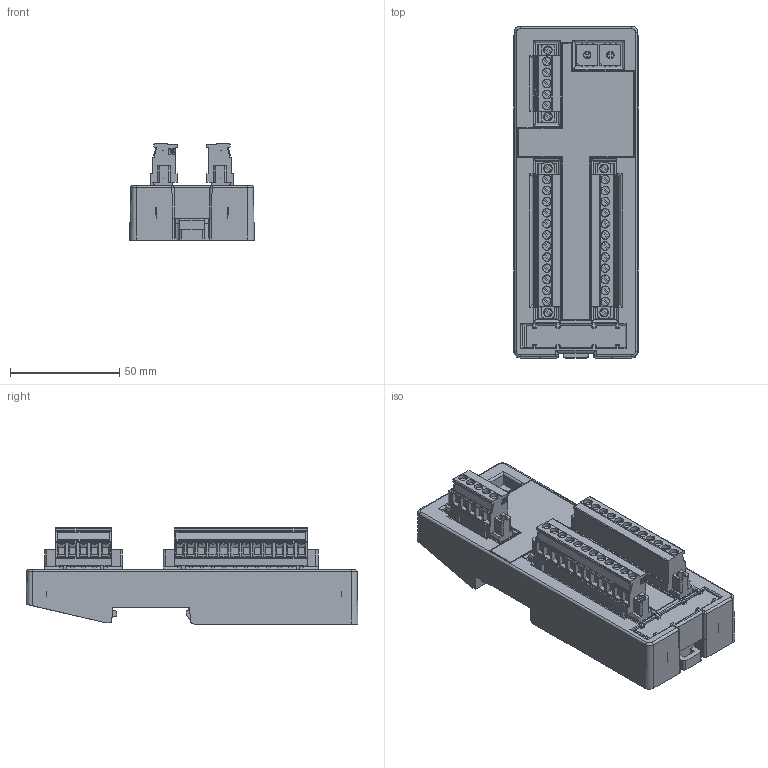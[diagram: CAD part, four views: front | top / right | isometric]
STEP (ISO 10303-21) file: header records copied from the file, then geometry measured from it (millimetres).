
FILE_DESCRIPTION((''),'2;1');
FILE_NAME('C:\TurckZip\FDN20-16XSG.stp','2007-02-12T11:13:50',('IKOROL'),(''),'Autodesk Inventor 11','Autodesk Inventor 11','');
FILE_SCHEMA(('AUTOMOTIVE_DESIGN { 1 0 10303 214 1 1 1 1 }'));
Length unit declared in the file: millimetre
Products named in the file (1): Part8
Bounding box: 57.15 x 152.24 x 44.05 mm (x, y, z)
Volume: 131910 mm3; surface area: 104644.1 mm2
Topology: 149 solids, 149 shells, 5598 faces, 14206 edges, 9070 vertices
Faces by surface type: plane 3893, cylinder 898, cone 432, sphere 316, torus 40, bspline 19
Full cylindrical faces by diameter (mm): 0.1 x2, 0.75 x1, 1 x14, 1.25 x1, 2.845 x9, 3 x2, 3.25 x5
Entity records: 169370 total; most frequent: CARTESIAN_POINT 32922, DIRECTION 28383, ORIENTED_EDGE 28046, EDGE_CURVE 14023, VECTOR 9519, LINE 9519, AXIS2_PLACEMENT_3D 9432, VERTEX_POINT 9022
